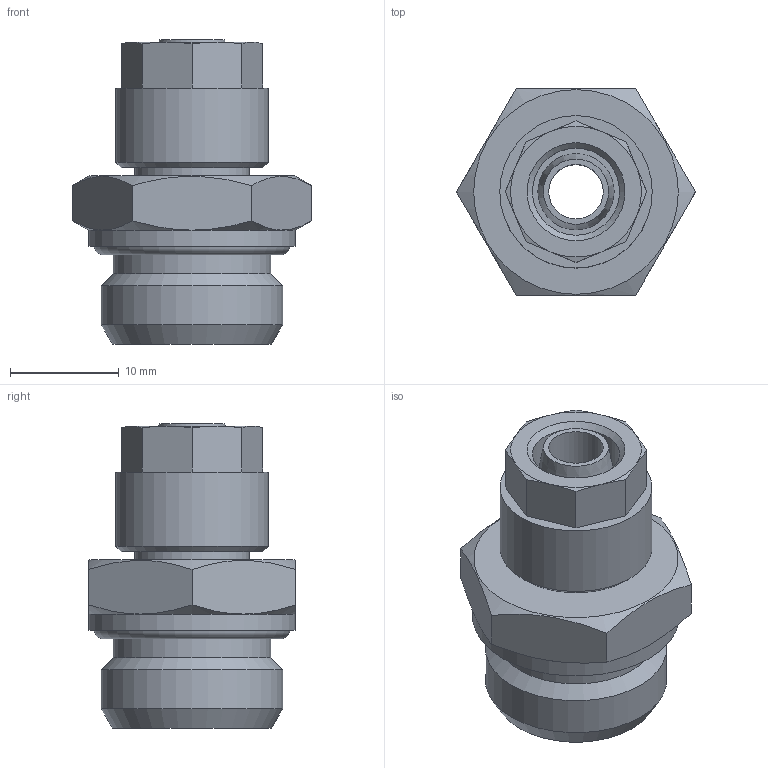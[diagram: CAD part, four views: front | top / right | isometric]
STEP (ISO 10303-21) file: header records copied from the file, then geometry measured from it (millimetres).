
FILE_DESCRIPTION(/* description */ (''),/* implementation_level */ '2;1');
FILE_NAME(/* name */ '10214_301Z_86_38_10.09.15',/* time_stamp */ '2015-09-10T10:17:58+02:00',/* author */ (''),/* organization */ (''),/* preprocessor_version */ 'ST-DEVELOPER v14',/* originating_system */ 'HiCAD 2013 1802.4 Build 509',/* authorisation */ '');
FILE_SCHEMA (('AUTOMOTIVE_DESIGN { 1 0 10303 214 1 1 1 1 }'));
Length unit declared in the file: millimetre
Products named in the file (4): Root; OR 14X1.78; 17006; R10214
Assembly tree (3 placements, depth 2):
  Root
    OR 14X1.78
    17006
    R10214
Bounding box: 21.94 x 19 x 28 mm (x, y, z)
Volume: 3839.3 mm3; surface area: 3806.9 mm2
Topology: 3 solids, 3 shells, 67 faces, 144 edges, 88 vertices
Faces by surface type: cone 27, plane 25, cylinder 11, torus 4
Full cylindrical faces by diameter (mm): 5 x1, 6.8 x1, 8 x1, 10.5 x1, 10.773 x1, 11 x1, 12 x1, 14 x1, 14.45 x1, 16.662 x1, 19 x1
Entity records: 2751 total; most frequent: DIRECTION 336, CARTESIAN_POINT 257, PRESENTATION_STYLE_ASSIGNMENT 215, COLOUR_RGB 214, DRAUGHTING_PRE_DEFINED_CURVE_FONT 212, CURVE_STYLE 212, OVER_RIDING_STYLED_ITEM 212, ORIENTED_EDGE 212
